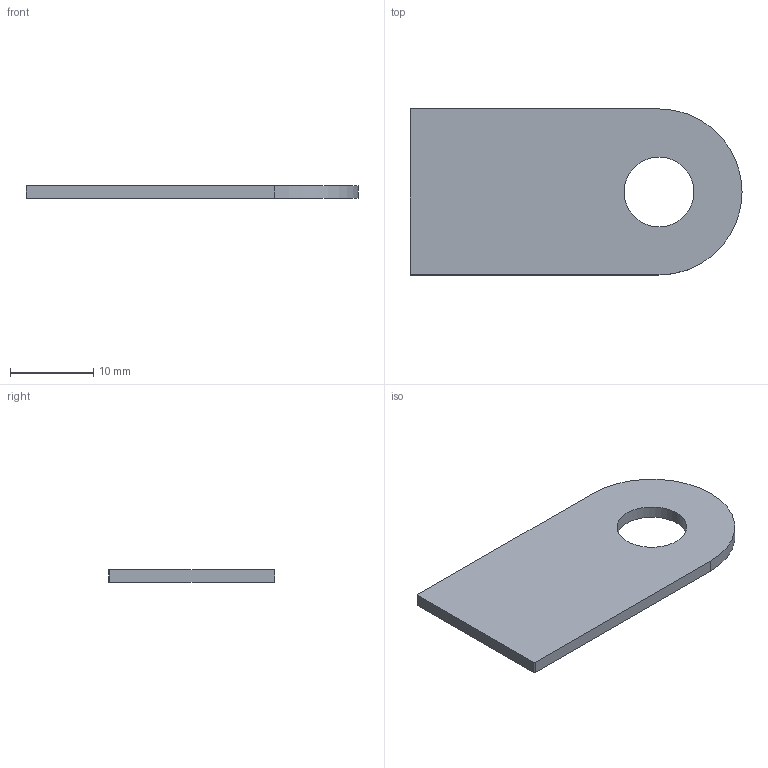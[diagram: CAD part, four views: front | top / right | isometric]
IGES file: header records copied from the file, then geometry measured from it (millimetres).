
Start section: START RECORD GO HERE.
Global section: file name: 20M_Chape_carrosserie.igs; native system: IBM CATIA IGES - CATIA Version 5 Release 19 ; preprocessor: CATIA Version 5 Release 19 ; author: Mathieu Jacquet; organization: MBPRO; date: 20191219.173200; units: millimetre
Bounding box: 40 x 20 x 1.5 mm (x, y, z)
Surface area: 1609.9 mm2 (no closed solid volume)
Topology: 0 solids, 0 shells, 10 faces, 48 edges, 48 vertices
Faces by surface type: revolution 5, plane 5
